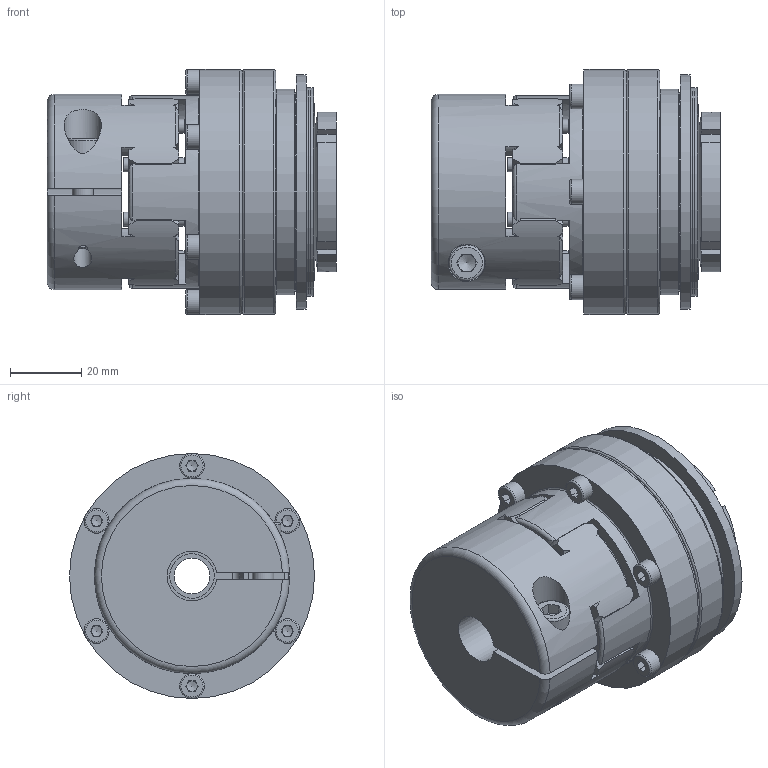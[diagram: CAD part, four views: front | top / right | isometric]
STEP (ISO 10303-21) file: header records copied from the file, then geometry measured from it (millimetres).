
FILE_DESCRIPTION( ( 'Unknown' ), '1' );
FILE_NAME( 'F:/JAKOB-STEP+IGES-Dateien/STEP-Dateien/SKW-EK/SKW-EK 45.stp', 'Unknown', ( 'Unknown' ), ( 'Unknown' ), 'PSStep 10.1', 'Unknown', ' ' );
FILE_SCHEMA( ( 'AUTOMOTIVE_DESIGN { 1 0 10303 214 1 1 1 1 }' ) );
Length unit declared in the file: millimetre
Products named in the file (1): SKW 45
Bounding box: 81.5 x 69 x 69 mm (x, y, z)
Volume: 183970.9 mm3; surface area: 57987.9 mm2
Topology: 1 solids, 9 shells, 678 faces, 1853 edges, 1194 vertices
Faces by surface type: plane 320, cylinder 143, cone 76, torus 66, extrusion 61, sphere 12
Full cylindrical faces by diameter (mm): 2 x2, 3.3 x8, 4 x14, 4.3 x6, 6 x1, 6.4 x1, 7 x6, 10 x2, 10.5 x1, 12.5 x1, 27 x2, 28.6 x1, 29.8 x1, 30 x2, 35 x2, 35.2 x1, 38.2 x2, 38.893 x1, 39.293 x1, 47.1 x3, 54.2 x1, 55 x3, 55.8 x2, 58 x1, 66 x1, 69 x2
Entity records: 28233 total; most frequent: CARTESIAN_POINT 6799, ORIENTED_EDGE 3282, DIRECTION 3130, EDGE_CURVE 1641, AXIS2_PLACEMENT_3D 1196, VERTEX_POINT 1121, EDGE_LOOP 895, FACE_OUTER_BOUND 759
